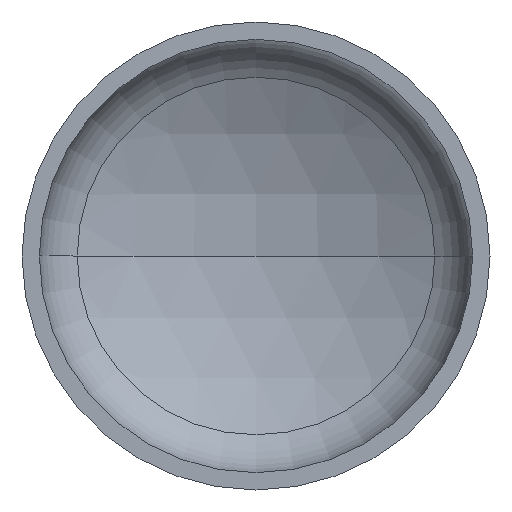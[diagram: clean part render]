
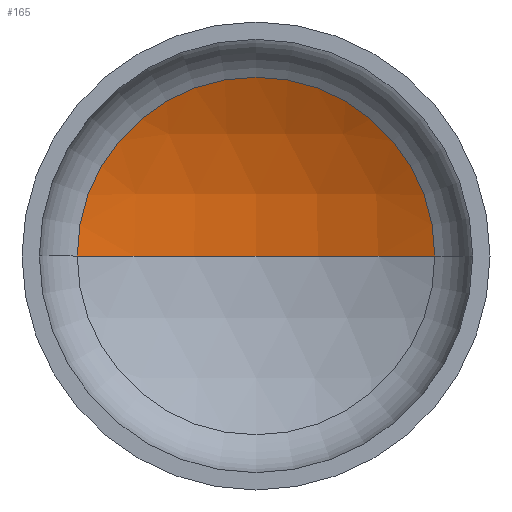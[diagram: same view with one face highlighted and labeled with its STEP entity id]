
A CAD part, front view. The second image highlights one B-rep face of the part: STEP entity #165.
In plain terms, the highlighted spherical face has radius 1600 mm.
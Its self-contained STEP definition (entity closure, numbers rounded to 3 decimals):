
#10 = EDGE_LOOP ( 'NONE', ( #124, #83, #64 ) ) ;
#17 = DIRECTION ( 'NONE',  ( 1., 0., 0. ) ) ;
#20 = DIRECTION ( 'NONE',  ( 0., -1., 0. ) ) ;
#27 = VERTEX_POINT ( 'NONE', #266 ) ;
#41 = AXIS2_PLACEMENT_3D ( 'NONE', #254, #379, #275 ) ;
#53 = AXIS2_PLACEMENT_3D ( 'NONE', #202, #212, #215 ) ;
#54 = AXIS2_PLACEMENT_3D ( 'NONE', #231, #187, #339 ) ;
#63 = AXIS2_PLACEMENT_3D ( 'NONE', #411, #20, #17 ) ;
#64 = ORIENTED_EDGE ( 'NONE', *, *, #135, .T. ) ;
#72 = VERTEX_POINT ( 'NONE', #289 ) ;
#78 = VERTEX_POINT ( 'NONE', #248 ) ;
#83 = ORIENTED_EDGE ( 'NONE', *, *, #137, .T. ) ;
#124 = ORIENTED_EDGE ( 'NONE', *, *, #144, .F. ) ;
#135 = EDGE_CURVE ( 'NONE', #78, #27, #182, .T. ) ;
#137 = EDGE_CURVE ( 'NONE', #72, #78, #297, .T. ) ;
#144 = EDGE_CURVE ( 'NONE', #72, #27, #176, .T. ) ;
#165 = ADVANCED_FACE ( 'NONE', ( #234 ), #286, .F. ) ;
#176 = CIRCLE ( 'NONE', #53, 1600. ) ;
#182 = CIRCLE ( 'NONE', #63, 764.031 ) ;
#187 = DIRECTION ( 'NONE',  ( 0., 0., -1. ) ) ;
#202 = CARTESIAN_POINT ( 'NONE',  ( 0., -1013.421, 0. ) ) ;
#212 = DIRECTION ( 'NONE',  ( 0., 0., 1. ) ) ;
#215 = DIRECTION ( 'NONE',  ( 1., 0., 0. ) ) ;
#231 = CARTESIAN_POINT ( 'NONE',  ( 0., -1013.421, 0. ) ) ;
#234 = FACE_OUTER_BOUND ( 'NONE', #10, .T. ) ;
#248 = CARTESIAN_POINT ( 'NONE',  ( 764.031, 392.373, 0. ) ) ;
#254 = CARTESIAN_POINT ( 'NONE',  ( 0., -1013.421, 0. ) ) ;
#266 = CARTESIAN_POINT ( 'NONE',  ( -764.031, 392.373, 0. ) ) ;
#275 = DIRECTION ( 'NONE',  ( -1., 0., 0. ) ) ;
#286 = SPHERICAL_SURFACE ( 'NONE', #41, 1600. ) ;
#289 = CARTESIAN_POINT ( 'NONE',  ( 0., 586.579, 0. ) ) ;
#297 = CIRCLE ( 'NONE', #54, 1600. ) ;
#339 = DIRECTION ( 'NONE',  ( -1., 0., 0. ) ) ;
#379 = DIRECTION ( 'NONE',  ( 0., 0., -1. ) ) ;
#411 = CARTESIAN_POINT ( 'NONE',  ( 0., 392.373, 0. ) ) ;
